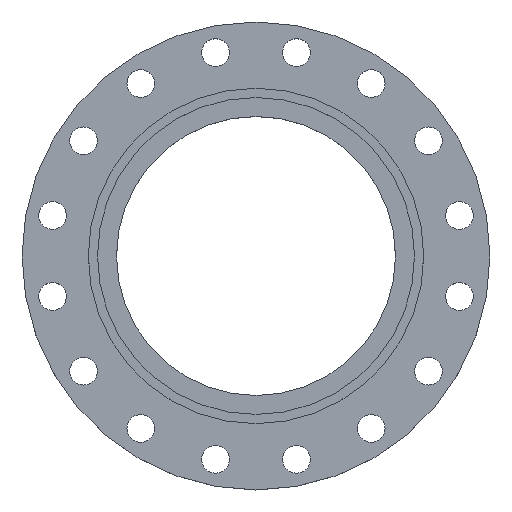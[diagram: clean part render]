
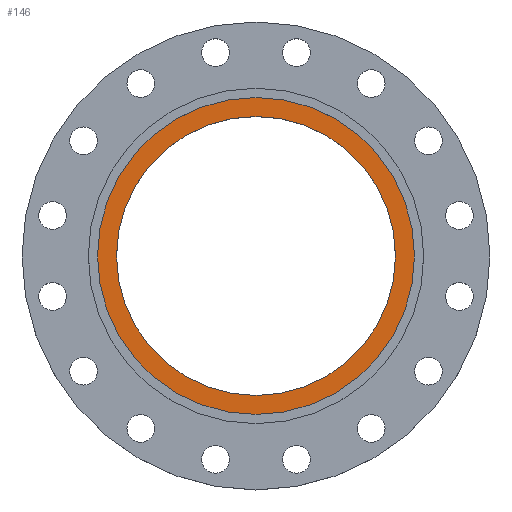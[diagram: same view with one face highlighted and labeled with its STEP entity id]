
A CAD part, top view. The second image highlights one B-rep face of the part: STEP entity #146.
In plain terms, the highlighted planar face has unit normal (0, 0, 1).
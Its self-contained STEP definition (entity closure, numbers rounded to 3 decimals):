
#7 = VERTEX_POINT ( 'NONE', #1019 ) ;
#60 = CIRCLE ( 'NONE', #192, 223.5 ) ;
#65 = ORIENTED_EDGE ( 'NONE', *, *, #1647, .F. ) ;
#76 = ORIENTED_EDGE ( 'NONE', *, *, #1665, .F. ) ;
#77 = ORIENTED_EDGE ( 'NONE', *, *, #754, .F. ) ;
#84 = ORIENTED_EDGE ( 'NONE', *, *, #1648, .F. ) ;
#146 = ADVANCED_FACE ( 'NONE', ( #852, #851 ), #850, .T. ) ;
#192 = AXIS2_PLACEMENT_3D ( 'NONE', #235, #234, #233 ) ;
#208 = DIRECTION ( 'NONE',  ( -1., 0., 0. ) ) ;
#210 = DIRECTION ( 'NONE',  ( 0., 0., -1. ) ) ;
#211 = CARTESIAN_POINT ( 'NONE',  ( 0., 0., -5.5 ) ) ;
#229 = DIRECTION ( 'NONE',  ( 1., 0., 0. ) ) ;
#230 = DIRECTION ( 'NONE',  ( 0., 0., 1. ) ) ;
#231 = CARTESIAN_POINT ( 'NONE',  ( 0., 0., -5.5 ) ) ;
#233 = DIRECTION ( 'NONE',  ( -1., 0., 0. ) ) ;
#234 = DIRECTION ( 'NONE',  ( 0., 0., -1. ) ) ;
#235 = CARTESIAN_POINT ( 'NONE',  ( 0., 0., -5.5 ) ) ;
#250 = EDGE_LOOP ( 'NONE', ( #84, #77 ) ) ;
#542 = VERTEX_POINT ( 'NONE', #1447 ) ;
#698 = CARTESIAN_POINT ( 'NONE',  ( 223.5, 0., -5.5 ) ) ;
#754 = EDGE_CURVE ( 'NONE', #542, #7, #833, .T. ) ;
#833 = CIRCLE ( 'NONE', #849, 196.752 ) ;
#843 = DIRECTION ( 'NONE',  ( 1., 0., 0. ) ) ;
#844 = VERTEX_POINT ( 'NONE', #1311 ) ;
#845 = DIRECTION ( 'NONE',  ( 0., 0., 1. ) ) ;
#847 = CARTESIAN_POINT ( 'NONE',  ( 223.5, 0., -5.5 ) ) ;
#849 = AXIS2_PLACEMENT_3D ( 'NONE', #1355, #1354, #1353 ) ;
#850 = PLANE ( 'NONE',  #1631 ) ;
#851 = FACE_OUTER_BOUND ( 'NONE', #1573, .T. ) ;
#852 = FACE_BOUND ( 'NONE', #250, .T. ) ;
#986 = CIRCLE ( 'NONE', #1509, 196.752 ) ;
#1019 = CARTESIAN_POINT ( 'NONE',  ( 196.752, 0., -5.5 ) ) ;
#1025 = AXIS2_PLACEMENT_3D ( 'NONE', #211, #210, #208 ) ;
#1031 = CIRCLE ( 'NONE', #1025, 223.5 ) ;
#1084 = VERTEX_POINT ( 'NONE', #698 ) ;
#1311 = CARTESIAN_POINT ( 'NONE',  ( -223.5, 0., -5.5 ) ) ;
#1353 = DIRECTION ( 'NONE',  ( 1., 0., 0. ) ) ;
#1354 = DIRECTION ( 'NONE',  ( 0., 0., 1. ) ) ;
#1355 = CARTESIAN_POINT ( 'NONE',  ( 0., 0., -5.5 ) ) ;
#1447 = CARTESIAN_POINT ( 'NONE',  ( -196.752, 0., -5.5 ) ) ;
#1509 = AXIS2_PLACEMENT_3D ( 'NONE', #231, #230, #229 ) ;
#1573 = EDGE_LOOP ( 'NONE', ( #65, #76 ) ) ;
#1631 = AXIS2_PLACEMENT_3D ( 'NONE', #847, #845, #843 ) ;
#1647 = EDGE_CURVE ( 'NONE', #844, #1084, #60, .T. ) ;
#1648 = EDGE_CURVE ( 'NONE', #7, #542, #986, .T. ) ;
#1665 = EDGE_CURVE ( 'NONE', #1084, #844, #1031, .T. ) ;
